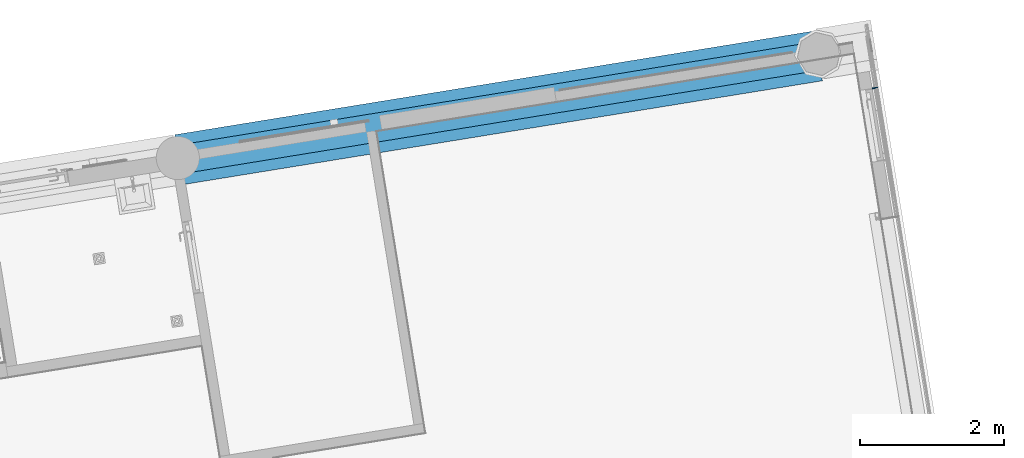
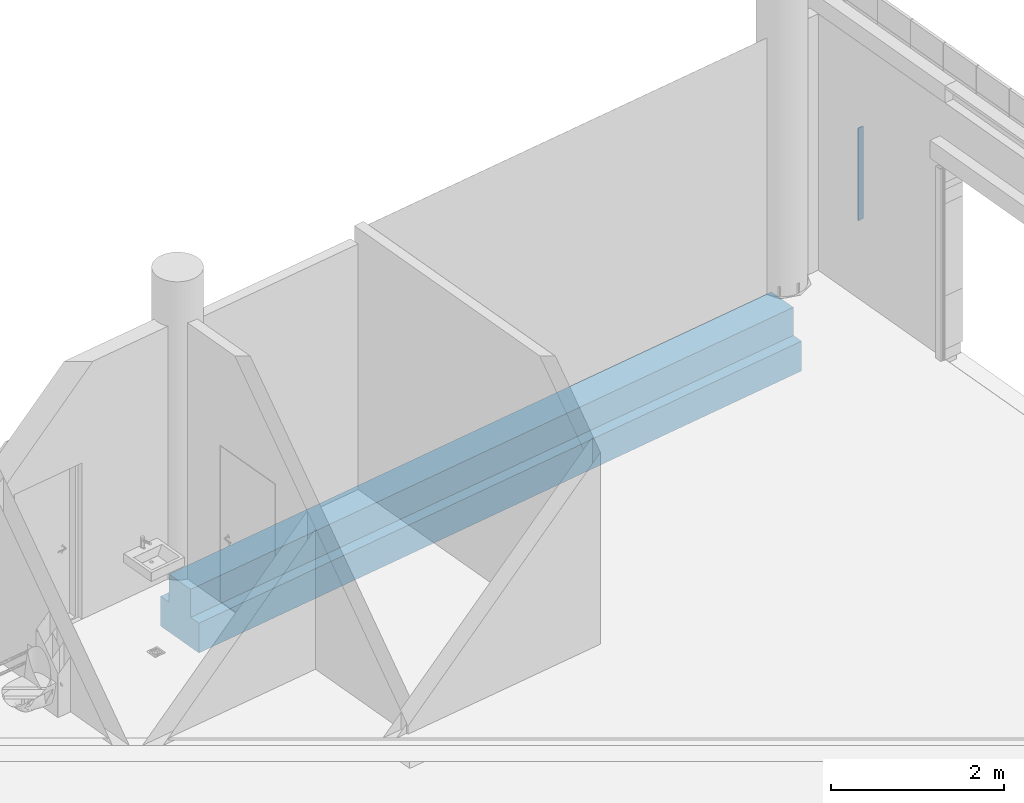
# One storey, part 4 of 38: 1 beam, 1 member, 1 element without a shape of its own.
"""IFC2X3 building model written with IfcOpenShell, lengths in millimetres."""

from ifc_helpers import new_model, entity, si_unit, converted_unit, derived_unit, direction, frame, origin, origin_with_axes, place, context, subcontext, project, spatial, polyline, outline, extrude, source, transform, mapped, material, type_object, element, aggregate, save


model = new_model("IFC2X3")

# Units and contexts
model_context = context("Model", 3, precision=0.01, world=origin(), true_north=direction((6.12323399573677e-17, 1.0)))
plan_context = context("Plan", 3, precision=1e-05, world=origin_with_axes())
body_context = subcontext(model_context, "Body", "Model", "MODEL_VIEW")
ifc_project = project(units=[converted_unit("PLANEANGLEUNIT", "DEGREE", entity("IfcPositiveLengthMeasure", 0.0174532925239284), si_unit("PLANEANGLEUNIT", "RADIAN"), dimensions=[0, 0, 0, 0, 0, 0, 0]), si_unit("AREAUNIT", "SQUARE_METRE"), si_unit("LENGTHUNIT", "METRE", prefix="MILLI"), si_unit("MASSUNIT", "GRAM", prefix="KILO"), si_unit("POWERUNIT", "WATT"), si_unit("PRESSUREUNIT", "PASCAL", prefix="KILO"), si_unit("FORCEUNIT", "NEWTON", prefix="KILO"), si_unit("ELECTRICVOLTAGEUNIT", "VOLT"), si_unit("ELECTRICCURRENTUNIT", "AMPERE"), si_unit("THERMODYNAMICTEMPERATUREUNIT", "DEGREE_CELSIUS"), si_unit("TIMEUNIT", "SECOND"), si_unit("VOLUMEUNIT", "CUBIC_METRE"), derived_unit("LINEARVELOCITYUNIT", [(si_unit("LENGTHUNIT", "METRE"), 1), (si_unit("TIMEUNIT", "SECOND"), -1)]), derived_unit("VOLUMETRICFLOWRATEUNIT", [(si_unit("VOLUMEUNIT", "CUBIC_METRE"), 1), (si_unit("TIMEUNIT", "SECOND"), -1)]), derived_unit("THERMALTRANSMITTANCEUNIT", [(si_unit("POWERUNIT", "WATT"), 1), (si_unit("THERMODYNAMICTEMPERATUREUNIT", "KELVIN"), -1), (si_unit("AREAUNIT", "SQUARE_METRE"), -1)]), derived_unit("SOUNDPRESSUREUNIT", [(si_unit("PRESSUREUNIT", "PASCAL"), 1)])], contexts=[model_context, plan_context])

# Site, building, storey
site_placement = place(None, frame((-0.00071070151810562, 0.00438415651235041, 0.0), z_axis=(0.0, 0.0, 1.0), x_axis=(-0.160236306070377, 0.987078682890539, 0.0)))
site = spatial("IfcSite", under=ifc_project, at=site_placement, Name="Default", CompositionType="ELEMENT")
building_placement = place(site_placement, origin_with_axes())
building = spatial("IfcBuilding", under=site, at=building_placement, Name="TOO", CompositionType="ELEMENT")
storey_placement = place(building_placement, frame((0.0, 0.0, 50999.9999999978), z_axis=(0.0, 0.0, 1.0), x_axis=(1.0, 0.0, 0.0)))
storey = spatial("IfcBuildingStorey", under=building, at=storey_placement, Name="Nivå D-H01", CompositionType="ELEMENT", Elevation=50999.9999999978)

# Curtain wall, member
curtain_wall_type = type_object("IfcCurtainWallType", Name="Curtain Wall:Curtain Wall Standard (Bruk kun denne)", PredefinedType="NOTDEFINED")
curtain_wall_placement = place(storey_placement, frame((0.0, 0.0, -50999.9999999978), z_axis=(0.0, 0.0, 1.0), x_axis=(1.0, 0.0, 0.0)))
curtain_wall = element("IfcCurtainWall", 1, at=curtain_wall_placement, inside=storey, type_object=curtain_wall_type, Name="Curtain Wall:Curtain Wall Standard (Bruk kun denne)", ObjectType="Curtain Wall:Curtain Wall Standard (Bruk kun denne)")
ifc_material = material(Name="A200 - Metall - Stål")
member_type = type_object("IfcMemberType", Name="Rectangular Mullion:A248-M11 vinkelprofil 80 høyre", PredefinedType="MULLION", material=ifc_material)
shared_shape = source(origin(), body_context, "Body", "SweptSolid", [
    extrude(outline(polyline([(-43.3333333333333, -8.33333333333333), (36.6666666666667, -8.33333333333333), (36.6666666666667, 1.66666666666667), (6.66666666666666, 1.66666666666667), (6.66666666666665, 6.66666666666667), (-43.3333333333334, 6.66666666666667), (-43.3333333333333, -8.33333333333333)])), frame((0.833333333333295, 36.6666666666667, -1300.0), z_axis=(0.0, 0.0, 1.0), x_axis=(0.0, -1.0, 0.0)), (0.0, 0.0, 1.0), 1300.0),
])
member_placement = place(curtain_wall_placement, frame((779287.619644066, -604232.480498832, 51899.9999999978), z_axis=(0.0, 0.0, -1.0), x_axis=(-1.0, 0.0, 0.0)))
member = element("IfcMember", 2, at=member_placement, type_object=member_type, material=ifc_material, Name="Rectangular Mullion:A248-M11 vinkelprofil 80 høyre", ObjectType="Rectangular Mullion:A248-M11 vinkelprofil 80 høyre", context=body_context, shape_type="MappedRepresentation", body=[
    mapped(shared_shape, transform((0.0, 0.0, 0.0), scale=1.0)),
])
aggregate(curtain_wall, [member])

# Beam
beam_type = type_object("IfcBeamType", Name="A223 - DLB Prefab. Betongbjelke:A223 - DLB Prefab. Betongbjelke - 815 x 700 x 400 mm", PredefinedType="BEAM")
beam_placement = place(storey_placement, frame((779852.619644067, -594502.480498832, -225.0), z_axis=(0.0, 0.0, 1.0), x_axis=(0.0, -1.0, 0.0)))
element("IfcBeam", 3, at=beam_placement, inside=storey, type_object=beam_type, Name="A223 - DLB Prefab. Betongbjelke:A223 - DLB Prefab. Betongbjelke - 815 x 700 x 400 mm", ObjectType="A223 - DLB Prefab. Betongbjelke:A223 - DLB Prefab. Betongbjelke - 815 x 700 x 400 mm", context=body_context, shape_type="SweptSolid", body=[
    extrude(outline(polyline([(-6.25000000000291, -350.0), (413.749999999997, -350.0), (413.749999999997, 350.0), (-6.25000000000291, 350.0), (-6.25000000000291, 200.0), (-401.25, 200.0), (-401.25, -200.0), (-6.25000000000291, -200.0), (-6.25000000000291, -350.0)])), frame((12.7000006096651, 0.0, -401.250000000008), z_axis=(1.0, 0.0, 0.0), x_axis=(0.0, 0.0, -1.0)), (0.0, 0.0, 1.0), 8974.5999987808),
])

save(model, "model.ifc")
